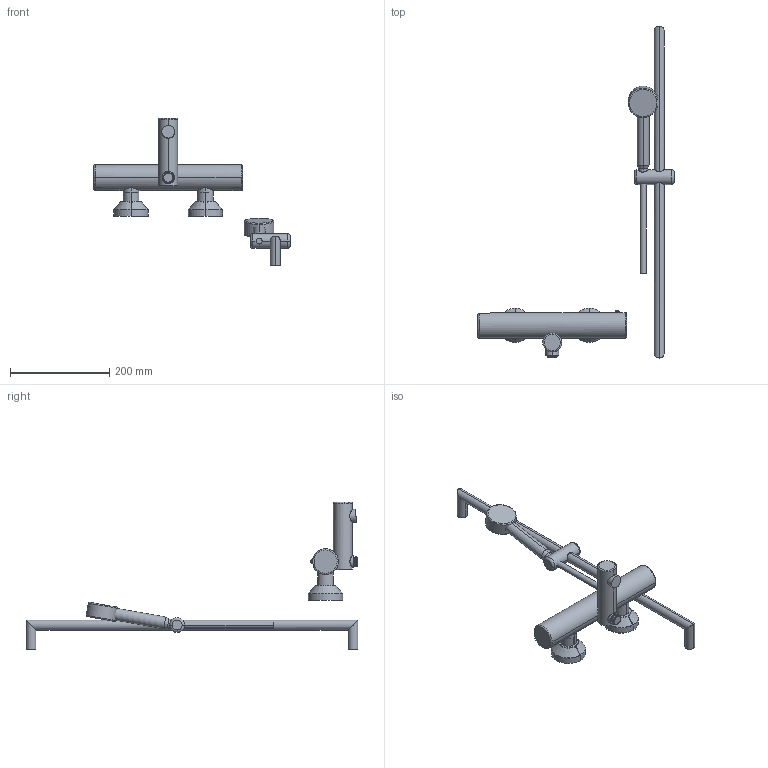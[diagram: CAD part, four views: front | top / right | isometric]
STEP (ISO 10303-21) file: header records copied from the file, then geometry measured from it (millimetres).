
FILE_DESCRIPTION (( 'STEP AP203' ), '1' );
FILE_NAME ('8591.STEP', '2018-08-15T05:49:50', ( '' ), ( '' ), 'SwSTEP 2.0', 'SolidWorks 2016', '' );
FILE_SCHEMA (( 'CONFIG_CONTROL_DESIGN' ));
Length unit declared in the file: millimetre
Products named in the file (1): 8591
Bounding box: 396.01 x 670 x 298 mm (x, y, z)
Volume: 1272450.2 mm3; surface area: 188021.1 mm2
Topology: 4 solids, 4 shells, 111 faces, 254 edges, 160 vertices
Faces by surface type: cylinder 52, plane 29, torus 14, cone 14, bspline 2
Entity records: 4932 total; most frequent: CARTESIAN_POINT 2359, DIRECTION 544, ORIENTED_EDGE 508, EDGE_CURVE 254, AXIS2_PLACEMENT_3D 231, VERTEX_POINT 160, CIRCLE 121, EDGE_LOOP 120
